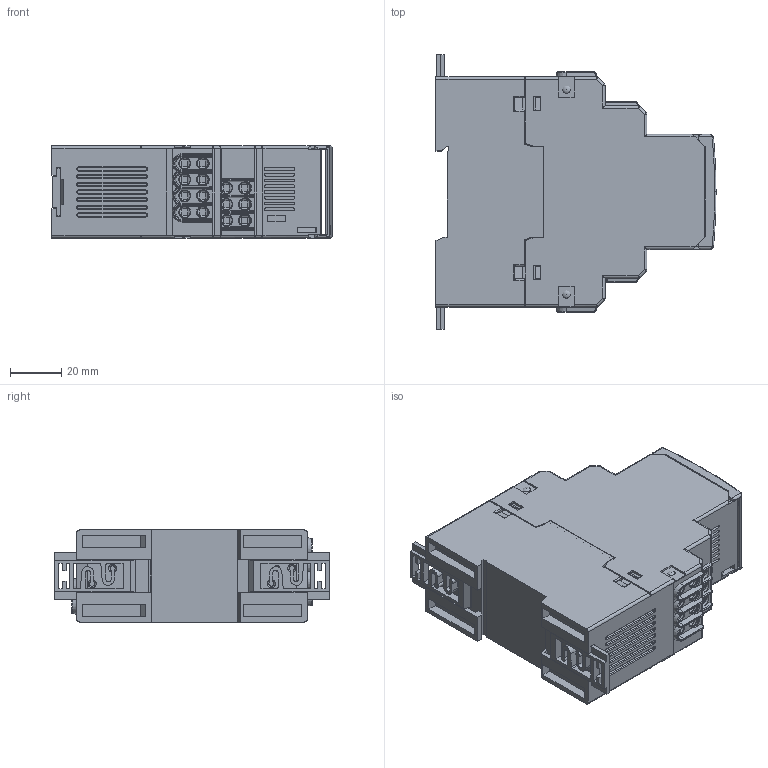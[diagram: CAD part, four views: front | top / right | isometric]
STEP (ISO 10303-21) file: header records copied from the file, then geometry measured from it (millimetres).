
FILE_DESCRIPTION (( 'STEP AP214' ), '1' );
FILE_NAME ('VMD421H.STEP', '2013-09-20T05:47:01', ( 'User' ), ( 'Bender' ), 'SwSTEP 2.0', 'SolidWorks 2013', '' );
FILE_SCHEMA (( 'AUTOMOTIVE_DESIGN' ));
Length unit declared in the file: millimetre
Products named in the file (8): Oberteil_z151795.10_F³llung__36_V2; Plomb_z151797.04__36mm_2TE; 370033_OR; Schieber_z151798.03; 370030_V2; VMD421H; Unterteil_z151974.06_F³llung__36mm_2TE; A370033
Assembly tree (10 placements, depth 2):
  VMD421H
    Unterteil_z151974.06_F³llung__36mm_2TE
    Schieber_z151798.03  x2
    Oberteil_z151795.10_F³llung__36_V2
    Plomb_z151797.04__36mm_2TE
    370030_V2  x3
    370033_OR
    A370033
Bounding box: 109.5 x 107.3 x 36 mm (x, y, z)
Volume: 286844.1 mm3; surface area: 69071.7 mm2
Topology: 10 solids, 18 shells, 4071 faces, 10754 edges, 6836 vertices
Faces by surface type: plane 2544, cylinder 969, torus 207, cone 174, bspline 106, sphere 71
Entity records: 114822 total; most frequent: CARTESIAN_POINT 30375, ORIENTED_EDGE 16366, DIRECTION 15117, EDGE_CURVE 8183, LINE 5889, VECTOR 5889, VERTEX_POINT 5215, AXIS2_PLACEMENT_3D 4614
